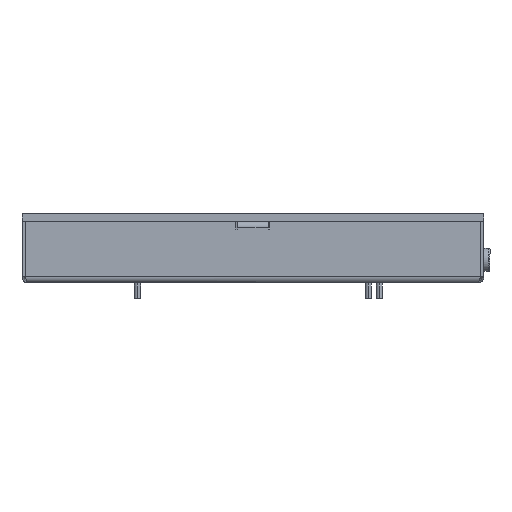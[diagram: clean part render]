
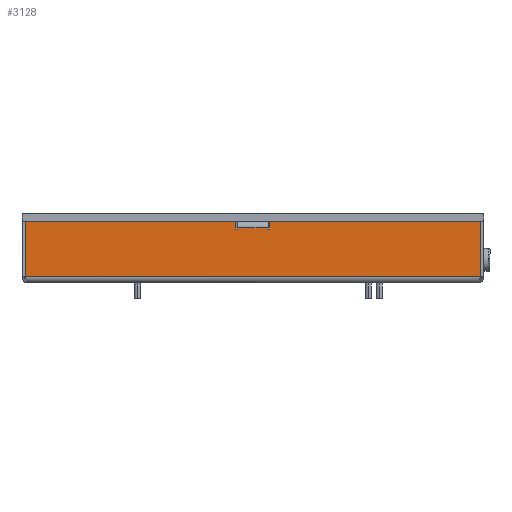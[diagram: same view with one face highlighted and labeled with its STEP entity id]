
A CAD part, front view. The second image highlights one B-rep face of the part: STEP entity #3128.
In plain terms, the highlighted planar face has unit normal (0, -1, 0) as drawn and (0, 1, 0) by its records, which use the part's own axes.
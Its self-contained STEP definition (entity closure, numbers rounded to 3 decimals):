
#258 = CARTESIAN_POINT ( 'NONE',  ( 147.9, 250., 38. ) ) ;
#333 = DIRECTION ( 'NONE',  ( 0., 0., 1. ) ) ;
#745 = EDGE_CURVE ( 'NONE', #5231, #5172, #2138, .T. ) ;
#796 = EDGE_CURVE ( 'NONE', #11033, #10930, #13474, .T. ) ;
#900 = LINE ( 'NONE', #12767, #4803 ) ;
#1340 = CARTESIAN_POINT ( 'NONE',  ( -147.9, 250., 38. ) ) ;
#1544 = EDGE_CURVE ( 'NONE', #10722, #5231, #4798, .T. ) ;
#1822 = CARTESIAN_POINT ( 'NONE',  ( 147.9, 250., 2. ) ) ;
#1876 = LINE ( 'NONE', #9299, #10884 ) ;
#1894 = VECTOR ( 'NONE', #10750, 1000. ) ;
#1969 = VERTEX_POINT ( 'NONE', #7911 ) ;
#2079 = VECTOR ( 'NONE', #6961, 1000. ) ;
#2138 = LINE ( 'NONE', #5135, #3433 ) ;
#2243 = DIRECTION ( 'NONE',  ( 1., 0., 0. ) ) ;
#2429 = VECTOR ( 'NONE', #10204, 1000. ) ;
#2430 = FACE_OUTER_BOUND ( 'NONE', #6906, .T. ) ;
#2445 = CARTESIAN_POINT ( 'NONE',  ( 10., 250., 0. ) ) ;
#2546 = ORIENTED_EDGE ( 'NONE', *, *, #7491, .F. ) ;
#2591 = ORIENTED_EDGE ( 'NONE', *, *, #13226, .T. ) ;
#2650 = EDGE_CURVE ( 'NONE', #5172, #5750, #2652, .T. ) ;
#2652 = LINE ( 'NONE', #2445, #1894 ) ;
#3024 = CARTESIAN_POINT ( 'NONE',  ( 0., 250., 38. ) ) ;
#3128 = ADVANCED_FACE ( 'NONE', ( #2430 ), #3333, .F. ) ;
#3282 = CARTESIAN_POINT ( 'NONE',  ( 10., 250., 34. ) ) ;
#3333 = PLANE ( 'NONE',  #12074 ) ;
#3433 = VECTOR ( 'NONE', #7354, 1000. ) ;
#3721 = EDGE_CURVE ( 'NONE', #7126, #12799, #10311, .T. ) ;
#3815 = VECTOR ( 'NONE', #333, 1000. ) ;
#3898 = DIRECTION ( 'NONE',  ( -1., 0., 0. ) ) ;
#3937 = DIRECTION ( 'NONE',  ( 0., 0., -1. ) ) ;
#4463 = LINE ( 'NONE', #6684, #11057 ) ;
#4558 = ORIENTED_EDGE ( 'NONE', *, *, #5144, .F. ) ;
#4798 = LINE ( 'NONE', #13303, #2079 ) ;
#4803 = VECTOR ( 'NONE', #2243, 1000. ) ;
#5063 = LINE ( 'NONE', #12448, #6045 ) ;
#5135 = CARTESIAN_POINT ( 'NONE',  ( 0., 250., 33. ) ) ;
#5144 = EDGE_CURVE ( 'NONE', #11272, #10005, #13405, .T. ) ;
#5172 = VERTEX_POINT ( 'NONE', #12775 ) ;
#5201 = DIRECTION ( 'NONE',  ( 1., 0., 0. ) ) ;
#5231 = VERTEX_POINT ( 'NONE', #9468 ) ;
#5550 = ORIENTED_EDGE ( 'NONE', *, *, #8875, .F. ) ;
#5669 = CARTESIAN_POINT ( 'NONE',  ( -11., 250., 0. ) ) ;
#5750 = VERTEX_POINT ( 'NONE', #3282 ) ;
#6045 = VECTOR ( 'NONE', #5201, 1000. ) ;
#6089 = CARTESIAN_POINT ( 'NONE',  ( -147.9, 250., 2. ) ) ;
#6144 = LINE ( 'NONE', #1822, #2429 ) ;
#6456 = VERTEX_POINT ( 'NONE', #258 ) ;
#6684 = CARTESIAN_POINT ( 'NONE',  ( -147.9, 250., 2. ) ) ;
#6690 = ORIENTED_EDGE ( 'NONE', *, *, #7728, .T. ) ;
#6856 = VECTOR ( 'NONE', #3937, 1000. ) ;
#6906 = EDGE_LOOP ( 'NONE', ( #11224, #5550, #4558, #2591, #11854, #10552, #7291, #9637, #2546, #7373, #6690, #8028 ) ) ;
#6961 = DIRECTION ( 'NONE',  ( 0., 0., -1. ) ) ;
#7086 = DIRECTION ( 'NONE',  ( 1., 0., 0. ) ) ;
#7126 = VERTEX_POINT ( 'NONE', #6089 ) ;
#7291 = ORIENTED_EDGE ( 'NONE', *, *, #1544, .F. ) ;
#7354 = DIRECTION ( 'NONE',  ( -1., 0., 0. ) ) ;
#7373 = ORIENTED_EDGE ( 'NONE', *, *, #3721, .F. ) ;
#7491 = EDGE_CURVE ( 'NONE', #12799, #6456, #6144, .T. ) ;
#7573 = CARTESIAN_POINT ( 'NONE',  ( 0., 250., 0. ) ) ;
#7697 = VECTOR ( 'NONE', #7086, 1000. ) ;
#7728 = EDGE_CURVE ( 'NONE', #7126, #11033, #4463, .T. ) ;
#7911 = CARTESIAN_POINT ( 'NONE',  ( -11., 250., 33. ) ) ;
#8019 = CARTESIAN_POINT ( 'NONE',  ( -10., 250., 0. ) ) ;
#8028 = ORIENTED_EDGE ( 'NONE', *, *, #796, .T. ) ;
#8376 = EDGE_CURVE ( 'NONE', #1969, #10930, #8915, .T. ) ;
#8667 = DIRECTION ( 'NONE',  ( 0., -1., 0. ) ) ;
#8853 = CARTESIAN_POINT ( 'NONE',  ( -11., 250., 38. ) ) ;
#8875 = EDGE_CURVE ( 'NONE', #10005, #1969, #1876, .T. ) ;
#8915 = LINE ( 'NONE', #5669, #3815 ) ;
#9158 = EDGE_CURVE ( 'NONE', #10722, #6456, #5063, .T. ) ;
#9299 = CARTESIAN_POINT ( 'NONE',  ( 0., 250., 33. ) ) ;
#9428 = CARTESIAN_POINT ( 'NONE',  ( 147.9, 250., 2. ) ) ;
#9468 = CARTESIAN_POINT ( 'NONE',  ( 11., 250., 33. ) ) ;
#9637 = ORIENTED_EDGE ( 'NONE', *, *, #9158, .T. ) ;
#10005 = VERTEX_POINT ( 'NONE', #12552 ) ;
#10204 = DIRECTION ( 'NONE',  ( 0., 0., 1. ) ) ;
#10311 = LINE ( 'NONE', #12515, #7697 ) ;
#10552 = ORIENTED_EDGE ( 'NONE', *, *, #745, .F. ) ;
#10722 = VERTEX_POINT ( 'NONE', #12789 ) ;
#10750 = DIRECTION ( 'NONE',  ( 0., 0., 1. ) ) ;
#10884 = VECTOR ( 'NONE', #3898, 1000. ) ;
#10930 = VERTEX_POINT ( 'NONE', #8853 ) ;
#11029 = DIRECTION ( 'NONE',  ( 0., 0., 1. ) ) ;
#11033 = VERTEX_POINT ( 'NONE', #1340 ) ;
#11057 = VECTOR ( 'NONE', #11029, 1000. ) ;
#11224 = ORIENTED_EDGE ( 'NONE', *, *, #8376, .F. ) ;
#11272 = VERTEX_POINT ( 'NONE', #11572 ) ;
#11572 = CARTESIAN_POINT ( 'NONE',  ( -10., 250., 34. ) ) ;
#11830 = VECTOR ( 'NONE', #12496, 1000. ) ;
#11854 = ORIENTED_EDGE ( 'NONE', *, *, #2650, .F. ) ;
#12074 = AXIS2_PLACEMENT_3D ( 'NONE', #7573, #8667, #12866 ) ;
#12448 = CARTESIAN_POINT ( 'NONE',  ( 0., 250., 38. ) ) ;
#12496 = DIRECTION ( 'NONE',  ( 1., 0., 0. ) ) ;
#12515 = CARTESIAN_POINT ( 'NONE',  ( 150., 250., 2. ) ) ;
#12552 = CARTESIAN_POINT ( 'NONE',  ( -10., 250., 33. ) ) ;
#12767 = CARTESIAN_POINT ( 'NONE',  ( -10., 250., 34. ) ) ;
#12775 = CARTESIAN_POINT ( 'NONE',  ( 10., 250., 33. ) ) ;
#12789 = CARTESIAN_POINT ( 'NONE',  ( 11., 250., 38. ) ) ;
#12799 = VERTEX_POINT ( 'NONE', #9428 ) ;
#12866 = DIRECTION ( 'NONE',  ( 0., 0., -1. ) ) ;
#13226 = EDGE_CURVE ( 'NONE', #11272, #5750, #900, .T. ) ;
#13303 = CARTESIAN_POINT ( 'NONE',  ( 11., 250., 0. ) ) ;
#13405 = LINE ( 'NONE', #8019, #6856 ) ;
#13474 = LINE ( 'NONE', #3024, #11830 ) ;
